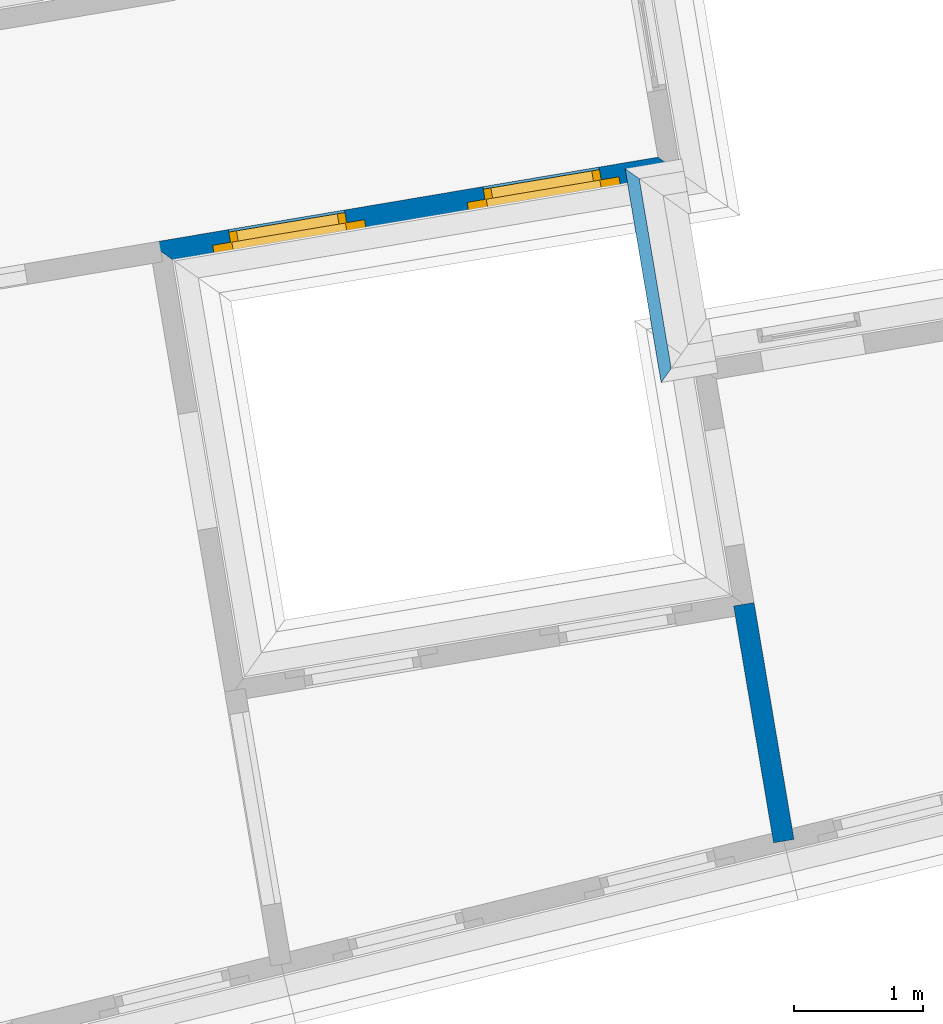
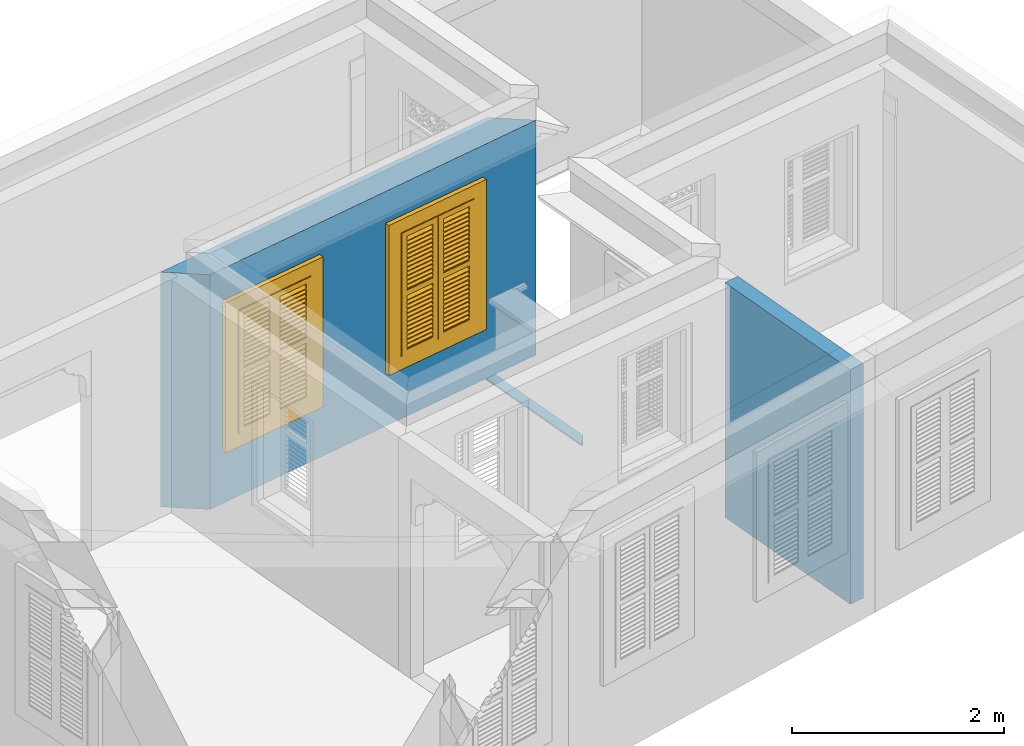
# One storey, part 5 of 12: 3 walls, 2 windows, 2 openings.
"""IFC4 building model written with IfcOpenShell, lengths in metres."""

from ifc_helpers import new_model, si_unit, frame, origin, origin_with_axes, place, context, subcontext, project, spatial, polyline, outline, extrude, clip, halfspace, faceted_brep, source, transform, mapped, material, layer, layer_set, layer_usage, material_profile, profile_set, profile_usage, type_object, type_shapes, element, fill, save


model = new_model("IFC4")

# Units and contexts
model_context = context("Model", 3, world=origin_with_axes())
body_context = subcontext(model_context, "Body", "Model", "MODEL_VIEW")
ifc_project = project(units=[si_unit("PLANEANGLEUNIT", "RADIAN"), si_unit("MASSUNIT", "GRAM", prefix="KILO"), si_unit("FORCEUNIT", "NEWTON", prefix="KILO"), si_unit("LENGTHUNIT", "METRE"), si_unit("AREAUNIT", "SQUARE_METRE"), si_unit("VOLUMEUNIT", "CUBIC_METRE")], contexts=[model_context, model_context])

# Site, building, storey
site_placement = place(None, origin_with_axes())
site = spatial("IfcSite", under=ifc_project, at=site_placement, Name="Site plot-6", CompositionType="ELEMENT")
building_placement = place(None, origin_with_axes())
building = spatial("IfcBuilding", under=site, at=building_placement, Name="Building plot-6", CompositionType="ELEMENT")
storey_placement = place(None, frame((0.0, 0.0, 3.6), z_axis=(0.0, 0.0, 1.0), x_axis=(1.0, 0.0, 0.0)))
storey = spatial("IfcBuildingStorey", under=building, at=storey_placement, Name="plot-6 1", CompositionType="ELEMENT", Elevation=3.6)

# Wall, openings, windows
ifc_material_1 = material(Name="Masonry")
ifc_layer_1 = layer(ifc_material_1, 0.33, ventilated=False)
ifc_layer_set_1 = layer_set([ifc_layer_1], Name="exterior_0.08_0.25")
ifc_layer_usage_1 = layer_usage(ifc_layer_set_1, "AXIS2", "POSITIVE", -0.25)
wall_type_1 = type_object("IfcWallType", Name="exterior_0.08_0.25", PredefinedType="SOLIDWALL", material=ifc_layer_set_1)
wall_1_placement = place(storey_placement, frame((-6.94638677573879, 2.66513004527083, 0.0), z_axis=(0.0, 0.0, 1.0), x_axis=(0.986076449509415, 0.166292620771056, 0.0)))
wall_1 = element("IfcWall", 1, at=wall_1_placement, inside=storey, type_object=wall_type_1, material=ifc_layer_usage_1, Name="exterior", context=body_context, shape_type="SweptSolid", body=[
    extrude(outline(polyline([(-0.0799999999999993, 0.0799999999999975), (0.249999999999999, -0.250000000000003), (4.23805094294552, -0.25), (3.90805094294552, 0.0799999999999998), (-0.0799999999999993, 0.0799999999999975)])), origin_with_axes(), (0.0, 0.0, 1.0), 2.7),
])
opening_1_placement = place(wall_1_placement, frame((0.542012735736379, 0.0, 0.75)))
opening_1 = element("IfcOpeningElement", 2, at=opening_1_placement, cuts=wall_1, Name="My Opening", ObjectType="Opening", context=body_context, shape_type="SweptSolid", body=[
    extrude(outline(polyline([(0.0, -0.27), (0.91, -0.27), (0.91, 1.1), (-4.44089209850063e-16, 1.1), (0.0, -0.27)])), origin_with_axes(), (0.0, 0.0, 1.0), 1.445),
])
opening_2_placement = place(wall_1_placement, frame((2.53603820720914, 0.0, 0.75)))
opening_2 = element("IfcOpeningElement", 3, at=opening_2_placement, cuts=wall_1, Name="My Opening", ObjectType="Opening", context=body_context, shape_type="SweptSolid", body=[
    extrude(outline(polyline([(0.0, -0.27), (0.91, -0.27), (0.91, 1.1), (0.0, 1.1), (0.0, -0.27)])), origin_with_axes(), (0.0, 0.0, 1.0), 1.445),
])
window_type = type_object("IfcWindowType", Name="shuttered_shorter", PartitioningType="DOUBLE_PANEL_HORIZONTAL", PredefinedType="NOTDEFINED")
shared_shape = source(origin(), body_context, "Body", "Brep", [
    faceted_brep([(0.393, 0.0, 0.622), (0.074, 0.0, 0.622), (0.074, 0.0, 0.632), (0.393, 0.0, 0.632), (0.074, -0.04, 0.592), (0.393, -0.04, 0.592), (0.393, -0.04, 0.582), (0.074, -0.04, 0.582), (0.517, 0.0, 0.682), (0.836, 0.0, 0.682), (0.836, 0.0, 0.672), (0.517, 0.0, 0.672), (0.517, -0.04, 0.642), (0.836, -0.04, 0.642), (0.836, -0.04, 0.632), (0.517, -0.04, 0.632), (0.517, 0.0, 0.632), (0.836, 0.0, 0.632), (0.836, 0.0, 0.622), (0.517, 0.0, 0.622), (0.517, -0.04, 0.592), (0.836, -0.04, 0.592), (0.836, -0.04, 0.582), (0.517, -0.04, 0.582), (0.517, 0.0, 0.232), (0.836, 0.0, 0.232), (0.836, 0.0, 0.222), (0.517, 0.0, 0.222), (0.517, -0.04, 0.192), (0.836, -0.04, 0.192), (0.836, -0.04, 0.182), (0.517, -0.04, 0.182), (0.517, 0.0, 0.532), (0.836, 0.0, 0.532), (0.836, 0.0, 0.522), (0.517, 0.0, 0.522), (0.517, -0.04, 0.492), (0.836, -0.04, 0.492), (0.836, -0.04, 0.482), (0.517, -0.04, 0.482), (0.517, 0.0, 0.482), (0.836, 0.0, 0.482), (0.836, 0.0, 0.472), (0.517, 0.0, 0.472), (0.517, -0.04, 0.442), (0.836, -0.04, 0.442), (0.836, -0.04, 0.432), (0.517, -0.04, 0.432), (0.517, 0.0, 0.582), (0.836, 0.0, 0.582), (0.836, 0.0, 0.572), (0.517, 0.0, 0.572), (0.517, -0.04, 0.542), (0.836, -0.04, 0.542), (0.836, -0.04, 0.532), (0.517, -0.04, 0.532), (0.517, 0.0, 0.182), (0.836, 0.0, 0.182), (0.836, 0.0, 0.172), (0.517, 0.0, 0.172), (0.517, -0.04, 0.142), (0.836, -0.04, 0.142), (0.836, -0.04, 0.132), (0.517, -0.04, 0.132), (0.517, 0.0, 0.382), (0.836, 0.0, 0.382), (0.836, 0.0, 0.372), (0.517, 0.0, 0.372), (0.517, -0.04, 0.342), (0.836, -0.04, 0.342), (0.836, -0.04, 0.332), (0.517, -0.04, 0.332), (0.517, 0.0, 0.432), (0.836, 0.0, 0.432), (0.836, 0.0, 0.422), (0.517, 0.0, 0.422), (0.517, -0.04, 0.392), (0.836, -0.04, 0.392), (0.836, -0.04, 0.382), (0.517, -0.04, 0.382), (0.517, 0.0, 0.132), (0.836, 0.0, 0.132), (0.836, 0.0, 0.122), (0.517, 0.0, 0.122), (0.517, -0.04, 0.092), (0.836, -0.04, 0.092), (0.836, -0.04, 0.082), (0.517, -0.04, 0.082), (0.517, 0.0, 0.282), (0.836, 0.0, 0.282), (0.836, 0.0, 0.272), (0.517, 0.0, 0.272), (0.517, -0.04, 0.242), (0.836, -0.04, 0.242), (0.836, -0.04, 0.232), (0.517, -0.04, 0.232), (0.517, 0.0, 0.332), (0.836, 0.0, 0.332), (0.836, 0.0, 0.322), (0.517, 0.0, 0.322), (0.517, -0.04, 0.292), (0.836, -0.04, 0.292), (0.836, -0.04, 0.282), (0.517, -0.04, 0.282), (0.517, 0.0, 1.362667), (0.836, 0.0, 1.362667), (0.836, 0.0, 1.352667), (0.517, 0.0, 1.352667), (0.517, -0.04, 1.322667), (0.836, -0.04, 1.322667), (0.836, -0.04, 1.312667), (0.517, -0.04, 1.312667), (0.517, 0.0, 1.312667), (0.836, 0.0, 1.312667), (0.836, 0.0, 1.302667), (0.517, 0.0, 1.302667), (0.517, -0.04, 1.272667), (0.836, -0.04, 1.272667), (0.836, -0.04, 1.262667), (0.517, -0.04, 1.262667), (0.517, 0.0, 0.912667), (0.836, 0.0, 0.912667), (0.836, 0.0, 0.902667), (0.517, 0.0, 0.902667), (0.517, -0.04, 0.872667), (0.836, -0.04, 0.872667), (0.836, -0.04, 0.862667), (0.517, -0.04, 0.862667), (0.517, 0.0, 1.212667), (0.836, 0.0, 1.212667), (0.836, 0.0, 1.202667), (0.517, 0.0, 1.202667), (0.517, -0.04, 1.172667), (0.836, -0.04, 1.172667), (0.836, -0.04, 1.162667), (0.517, -0.04, 1.162667), (0.517, 0.0, 1.162667), (0.836, 0.0, 1.162667), (0.836, 0.0, 1.152667), (0.517, 0.0, 1.152667), (0.517, -0.04, 1.122667), (0.836, -0.04, 1.122667), (0.836, -0.04, 1.112667), (0.517, -0.04, 1.112667), (0.517, 0.0, 1.262667), (0.836, 0.0, 1.262667), (0.836, 0.0, 1.252667), (0.517, 0.0, 1.252667), (0.517, -0.04, 1.222667), (0.836, -0.04, 1.222667), (0.836, -0.04, 1.212667), (0.517, -0.04, 1.212667), (0.517, 0.0, 0.862667), (0.836, 0.0, 0.862667), (0.836, 0.0, 0.852667), (0.517, 0.0, 0.852667), (0.517, -0.04, 0.822667), (0.836, -0.04, 0.822667), (0.836, -0.04, 0.812667), (0.517, -0.04, 0.812667), (0.517, 0.0, 1.062667), (0.836, 0.0, 1.062667), (0.836, 0.0, 1.052667), (0.517, 0.0, 1.052667), (0.517, -0.04, 1.022667), (0.836, -0.04, 1.022667), (0.836, -0.04, 1.012667), (0.517, -0.04, 1.012667), (0.517, 0.0, 1.112667), (0.836, 0.0, 1.112667), (0.836, 0.0, 1.102667), (0.517, 0.0, 1.102667), (0.517, -0.04, 1.072667), (0.836, -0.04, 1.072667), (0.836, -0.04, 1.062667), (0.517, -0.04, 1.062667), (0.517, 0.0, 0.812667), (0.836, 0.0, 0.812667), (0.836, 0.0, 0.802667), (0.517, 0.0, 0.802667), (0.517, -0.04, 0.772667), (0.836, -0.04, 0.772667), (0.836, -0.04, 0.762667), (0.517, -0.04, 0.762667), (0.517, 0.0, 0.962667), (0.836, 0.0, 0.962667), (0.836, 0.0, 0.952667), (0.517, 0.0, 0.952667), (0.517, -0.04, 0.922667), (0.836, -0.04, 0.922667), (0.836, -0.04, 0.912667), (0.517, -0.04, 0.912667), (0.517, 0.0, 1.012667), (0.836, 0.0, 1.012667), (0.836, 0.0, 1.002667), (0.517, 0.0, 1.002667), (0.517, -0.04, 0.972667), (0.836, -0.04, 0.972667), (0.836, -0.04, 0.962667), (0.517, -0.04, 0.962667), (0.074, 0.0, 0.682), (0.393, 0.0, 0.682), (0.393, 0.0, 0.672), (0.074, 0.0, 0.672), (0.074, -0.04, 0.642), (0.393, -0.04, 0.642), (0.393, -0.04, 0.632), (0.074, -0.04, 0.632), (0.074, 0.0, 0.232), (0.393, 0.0, 0.232), (0.393, 0.0, 0.222), (0.074, 0.0, 0.222), (0.074, -0.04, 0.192), (0.393, -0.04, 0.192), (0.393, -0.04, 0.182), (0.074, -0.04, 0.182), (0.074, 0.0, 0.532), (0.393, 0.0, 0.532), (0.393, 0.0, 0.522), (0.074, 0.0, 0.522), (0.074, -0.04, 0.492), (0.393, -0.04, 0.492), (0.393, -0.04, 0.482), (0.074, -0.04, 0.482), (0.074, 0.0, 0.482), (0.393, 0.0, 0.482), (0.393, 0.0, 0.472), (0.074, 0.0, 0.472), (0.074, -0.04, 0.442), (0.393, -0.04, 0.442), (0.393, -0.04, 0.432), (0.074, -0.04, 0.432), (0.074, 0.0, 0.582), (0.393, 0.0, 0.582), (0.393, 0.0, 0.572), (0.074, 0.0, 0.572), (0.074, -0.04, 0.542), (0.393, -0.04, 0.542), (0.393, -0.04, 0.532), (0.074, -0.04, 0.532), (0.074, 0.0, 0.182), (0.393, 0.0, 0.182), (0.393, 0.0, 0.172), (0.074, 0.0, 0.172), (0.074, -0.04, 0.142), (0.393, -0.04, 0.142), (0.393, -0.04, 0.132), (0.074, -0.04, 0.132), (0.074, 0.0, 0.382), (0.393, 0.0, 0.382), (0.393, 0.0, 0.372), (0.074, 0.0, 0.372), (0.074, -0.04, 0.342), (0.393, -0.04, 0.342), (0.393, -0.04, 0.332), (0.074, -0.04, 0.332), (0.074, 0.0, 0.432), (0.393, 0.0, 0.432), (0.393, 0.0, 0.422), (0.074, 0.0, 0.422), (0.074, -0.04, 0.392), (0.393, -0.04, 0.392), (0.393, -0.04, 0.382), (0.074, -0.04, 0.382), (0.074, 0.0, 0.132), (0.393, 0.0, 0.132), (0.393, 0.0, 0.122), (0.074, 0.0, 0.122), (0.074, -0.04, 0.092), (0.393, -0.04, 0.092), (0.393, -0.04, 0.082), (0.074, -0.04, 0.082), (0.074, 0.0, 0.282), (0.393, 0.0, 0.282), (0.393, 0.0, 0.272), (0.074, 0.0, 0.272), (0.074, -0.04, 0.242), (0.393, -0.04, 0.242), (0.393, -0.04, 0.232), (0.074, -0.04, 0.232), (0.074, 0.0, 0.332), (0.393, 0.0, 0.332), (0.393, 0.0, 0.322), (0.074, 0.0, 0.322), (0.074, -0.04, 0.292), (0.393, -0.04, 0.292), (0.393, -0.04, 0.282), (0.074, -0.04, 0.282), (0.074, 0.0, 1.362667), (0.393, 0.0, 1.362667), (0.393, 0.0, 1.352667), (0.074, 0.0, 1.352667), (0.074, -0.04, 1.322667), (0.393, -0.04, 1.322667), (0.393, -0.04, 1.312667), (0.074, -0.04, 1.312667), (0.074, 0.0, 1.312667), (0.393, 0.0, 1.312667), (0.393, 0.0, 1.302667), (0.074, 0.0, 1.302667), (0.074, -0.04, 1.272667), (0.393, -0.04, 1.272667), (0.393, -0.04, 1.262667), (0.074, -0.04, 1.262667), (0.074, 0.0, 0.912667), (0.393, 0.0, 0.912667), (0.393, 0.0, 0.902667), (0.074, 0.0, 0.902667), (0.074, -0.04, 0.872667), (0.393, -0.04, 0.872667), (0.393, -0.04, 0.862667), (0.074, -0.04, 0.862667), (0.074, 0.0, 1.212667), (0.393, 0.0, 1.212667), (0.393, 0.0, 1.202667), (0.074, 0.0, 1.202667), (0.074, -0.04, 1.172667), (0.393, -0.04, 1.172667), (0.393, -0.04, 1.162667), (0.074, -0.04, 1.162667), (0.074, 0.0, 1.162667), (0.393, 0.0, 1.162667), (0.393, 0.0, 1.152667), (0.074, 0.0, 1.152667), (0.074, -0.04, 1.122667), (0.393, -0.04, 1.122667), (0.393, -0.04, 1.112667), (0.074, -0.04, 1.112667), (0.074, 0.0, 1.262667), (0.393, 0.0, 1.262667), (0.393, 0.0, 1.252667), (0.074, 0.0, 1.252667), (0.074, -0.04, 1.222667), (0.393, -0.04, 1.222667), (0.393, -0.04, 1.212667), (0.074, -0.04, 1.212667), (0.074, 0.0, 0.862667), (0.393, 0.0, 0.862667), (0.393, 0.0, 0.852667), (0.074, 0.0, 0.852667), (0.074, -0.04, 0.822667), (0.393, -0.04, 0.822667), (0.393, -0.04, 0.812667), (0.074, -0.04, 0.812667), (0.074, 0.0, 1.062667), (0.393, 0.0, 1.062667), (0.393, 0.0, 1.052667), (0.074, 0.0, 1.052667), (0.074, -0.04, 1.022667), (0.393, -0.04, 1.022667), (0.393, -0.04, 1.012667), (0.074, -0.04, 1.012667), (0.074, 0.0, 1.112667), (0.393, 0.0, 1.112667), (0.393, 0.0, 1.102667), (0.074, 0.0, 1.102667), (0.074, -0.04, 1.072667), (0.393, -0.04, 1.072667), (0.393, -0.04, 1.062667), (0.074, -0.04, 1.062667), (0.074, 0.0, 0.812667), (0.393, 0.0, 0.812667), (0.393, 0.0, 0.802667), (0.074, 0.0, 0.802667), (0.074, -0.04, 0.772667), (0.393, -0.04, 0.772667), (0.393, -0.04, 0.762667), (0.074, -0.04, 0.762667), (0.074, 0.0, 0.962667), (0.393, 0.0, 0.962667), (0.393, 0.0, 0.952667), (0.074, 0.0, 0.952667), (0.074, -0.04, 0.922667), (0.393, -0.04, 0.922667), (0.393, -0.04, 0.912667), (0.074, -0.04, 0.912667), (0.074, 0.0, 1.012667), (0.393, 0.0, 1.012667), (0.393, 0.0, 1.002667), (0.074, 0.0, 1.002667), (0.074, -0.04, 0.972667), (0.393, -0.04, 0.972667), (0.393, -0.04, 0.962667), (0.074, -0.04, 0.962667), (0.517, -0.04, 0.072), (0.457, -0.04, 0.012), (0.896, -0.04, 0.012), (0.836, -0.04, 0.072), (0.457, -0.04, 0.692667), (0.517, -0.04, 0.692667), (0.457, 0.0, 0.012), (0.896, 0.0, 0.012), (0.836, -0.04, 0.692667), (0.896, -0.04, 0.692667), (0.836, 0.0, 0.072), (0.517, 0.0, 0.072), (0.457, 0.0, 0.692667), (0.517, 0.0, 0.692667), (0.517, -0.04, 0.752666), (0.457, -0.04, 0.752666), (0.896, 0.0, 0.692667), (0.836, 0.0, 0.692667), (0.836, -0.04, 0.752666), (0.896, -0.04, 0.752666), (0.457, 0.0, 0.752666), (0.457, -0.04, 1.433333), (0.517, -0.04, 1.373333), (0.896, 0.0, 0.752666), (0.836, -0.04, 1.373333), (0.896, -0.04, 1.433333), (0.457, 0.0, 1.433333), (0.517, 0.0, 0.752666), (0.836, 0.0, 0.752666), (0.517, 0.0, 1.373333), (0.896, 0.0, 1.433333), (0.836, 0.0, 1.373333), (0.074, -0.04, 0.072), (0.014, -0.04, 0.012), (0.453, -0.04, 0.012), (0.393, -0.04, 0.072), (0.014, -0.04, 0.692667), (0.074, -0.04, 0.692667), (0.014, 0.0, 0.012), (0.453, 0.0, 0.012), (0.393, -0.04, 0.692667), (0.453, -0.04, 0.692667), (0.393, 0.0, 0.072), (0.074, 0.0, 0.072), (0.014, 0.0, 0.692667), (0.074, 0.0, 0.692667), (0.074, -0.04, 0.752666), (0.014, -0.04, 0.752666), (0.453, 0.0, 0.692667), (0.393, 0.0, 0.692667), (0.393, -0.04, 0.752666), (0.453, -0.04, 0.752666), (0.014, 0.0, 0.752666), (0.014, -0.04, 1.433333), (0.074, -0.04, 1.373333), (0.453, 0.0, 0.752666), (0.393, -0.04, 1.373333), (0.453, -0.04, 1.433333), (0.014, 0.0, 1.433333), (0.074, 0.0, 0.752666), (0.393, 0.0, 0.752666), (0.074, 0.0, 1.373333), (0.453, 0.0, 1.433333), (0.393, 0.0, 1.373333), (0.0, 0.33, 1.445), (0.91, 0.33, 1.445), (0.85, 0.33, 1.385), (0.06, 0.33, 1.385), (0.91, 0.25, 1.445), (0.0, 0.25, 1.445), (0.91, 0.25, 1.445), (0.85, 0.33, 0.06), (0.91, 0.33, 0.0), (0.85, 0.25, 1.385), (0.06, 0.25, 1.385), (0.0, 0.33, 0.0), (0.06, 0.33, 0.06), (0.0, 0.25, 0.0), (0.91, 0.25, 0.0), (0.85, 0.25, 0.06), (0.06, 0.25, 0.06), (1.05, 0.25, 1.585), (-0.14, 0.25, 1.585), (-0.14, -0.03, 1.585), (1.05, -0.03, 1.585), (0.9, -0.03, 1.435), (0.01, -0.03, 1.435), (0.01, 0.25, 1.435), (0.9, 0.25, 1.435), (0.9, 0.25, 0.01), (0.9, -0.03, 0.01), (1.05, -0.03, -0.14), (1.05, 0.25, -0.14), (0.01, -0.03, 0.01), (0.01, 0.25, 0.01), (-0.14, -0.03, -0.14), (-0.14, 0.25, -0.14)], [[[0, 1, 2, 3]], [[4, 5, 3, 2]], [[5, 6, 0, 3]], [[1, 0, 6, 7]], [[2, 1, 7, 4]], [[5, 4, 7, 6]], [[8, 9, 10, 11]], [[12, 13, 9, 8]], [[13, 14, 10, 9]], [[14, 15, 11, 10]], [[15, 12, 8, 11]], [[13, 12, 15, 14]], [[16, 17, 18, 19]], [[20, 21, 17, 16]], [[21, 22, 18, 17]], [[22, 23, 19, 18]], [[23, 20, 16, 19]], [[21, 20, 23, 22]], [[24, 25, 26, 27]], [[28, 29, 25, 24]], [[29, 30, 26, 25]], [[30, 31, 27, 26]], [[31, 28, 24, 27]], [[29, 28, 31, 30]], [[32, 33, 34, 35]], [[36, 37, 33, 32]], [[37, 38, 34, 33]], [[38, 39, 35, 34]], [[39, 36, 32, 35]], [[37, 36, 39, 38]], [[40, 41, 42, 43]], [[44, 45, 41, 40]], [[45, 46, 42, 41]], [[46, 47, 43, 42]], [[47, 44, 40, 43]], [[45, 44, 47, 46]], [[48, 49, 50, 51]], [[52, 53, 49, 48]], [[53, 54, 50, 49]], [[54, 55, 51, 50]], [[55, 52, 48, 51]], [[53, 52, 55, 54]], [[56, 57, 58, 59]], [[60, 61, 57, 56]], [[61, 62, 58, 57]], [[62, 63, 59, 58]], [[63, 60, 56, 59]], [[61, 60, 63, 62]], [[64, 65, 66, 67]], [[68, 69, 65, 64]], [[69, 70, 66, 65]], [[70, 71, 67, 66]], [[71, 68, 64, 67]], [[69, 68, 71, 70]], [[72, 73, 74, 75]], [[76, 77, 73, 72]], [[77, 78, 74, 73]], [[78, 79, 75, 74]], [[79, 76, 72, 75]], [[77, 76, 79, 78]], [[80, 81, 82, 83]], [[84, 85, 81, 80]], [[85, 86, 82, 81]], [[86, 87, 83, 82]], [[87, 84, 80, 83]], [[85, 84, 87, 86]], [[88, 89, 90, 91]], [[92, 93, 89, 88]], [[93, 94, 90, 89]], [[94, 95, 91, 90]], [[95, 92, 88, 91]], [[93, 92, 95, 94]], [[96, 97, 98, 99]], [[100, 101, 97, 96]], [[101, 102, 98, 97]], [[102, 103, 99, 98]], [[103, 100, 96, 99]], [[101, 100, 103, 102]], [[104, 105, 106, 107]], [[108, 109, 105, 104]], [[109, 110, 106, 105]], [[110, 111, 107, 106]], [[111, 108, 104, 107]], [[109, 108, 111, 110]], [[112, 113, 114, 115]], [[116, 117, 113, 112]], [[117, 118, 114, 113]], [[118, 119, 115, 114]], [[119, 116, 112, 115]], [[117, 116, 119, 118]], [[120, 121, 122, 123]], [[124, 125, 121, 120]], [[125, 126, 122, 121]], [[126, 127, 123, 122]], [[127, 124, 120, 123]], [[125, 124, 127, 126]], [[128, 129, 130, 131]], [[132, 133, 129, 128]], [[133, 134, 130, 129]], [[134, 135, 131, 130]], [[135, 132, 128, 131]], [[133, 132, 135, 134]], [[136, 137, 138, 139]], [[140, 141, 137, 136]], [[141, 142, 138, 137]], [[142, 143, 139, 138]], [[139, 143, 140, 136]], [[141, 140, 143, 142]], [[144, 145, 146, 147]], [[148, 149, 145, 144]], [[149, 150, 146, 145]], [[150, 151, 147, 146]], [[151, 148, 144, 147]], [[149, 148, 151, 150]], [[152, 153, 154, 155]], [[156, 157, 153, 152]], [[157, 158, 154, 153]], [[158, 159, 155, 154]], [[159, 156, 152, 155]], [[157, 156, 159, 158]], [[160, 161, 162, 163]], [[164, 165, 161, 160]], [[165, 166, 162, 161]], [[166, 167, 163, 162]], [[167, 164, 160, 163]], [[165, 164, 167, 166]], [[168, 169, 170, 171]], [[172, 173, 169, 168]], [[173, 174, 170, 169]], [[174, 175, 171, 170]], [[175, 172, 168, 171]], [[173, 172, 175, 174]], [[176, 177, 178, 179]], [[180, 181, 177, 176]], [[181, 182, 178, 177]], [[182, 183, 179, 178]], [[183, 180, 176, 179]], [[181, 180, 183, 182]], [[184, 185, 186, 187]], [[188, 189, 185, 184]], [[189, 190, 186, 185]], [[190, 191, 187, 186]], [[191, 188, 184, 187]], [[189, 188, 191, 190]], [[192, 193, 194, 195]], [[196, 197, 193, 192]], [[197, 198, 194, 193]], [[198, 199, 195, 194]], [[199, 196, 192, 195]], [[197, 196, 199, 198]], [[200, 201, 202, 203]], [[204, 205, 201, 200]], [[205, 206, 202, 201]], [[206, 207, 203, 202]], [[207, 204, 200, 203]], [[205, 204, 207, 206]], [[208, 209, 210, 211]], [[212, 213, 209, 208]], [[213, 214, 210, 209]], [[214, 215, 211, 210]], [[215, 212, 208, 211]], [[213, 212, 215, 214]], [[216, 217, 218, 219]], [[220, 221, 217, 216]], [[221, 222, 218, 217]], [[222, 223, 219, 218]], [[223, 220, 216, 219]], [[221, 220, 223, 222]], [[224, 225, 226, 227]], [[228, 229, 225, 224]], [[229, 230, 226, 225]], [[230, 231, 227, 226]], [[231, 228, 224, 227]], [[229, 228, 231, 230]], [[232, 233, 234, 235]], [[236, 237, 233, 232]], [[237, 238, 234, 233]], [[238, 239, 235, 234]], [[239, 236, 232, 235]], [[237, 236, 239, 238]], [[240, 241, 242, 243]], [[244, 245, 241, 240]], [[245, 246, 242, 241]], [[246, 247, 243, 242]], [[247, 244, 240, 243]], [[245, 244, 247, 246]], [[248, 249, 250, 251]], [[252, 253, 249, 248]], [[253, 254, 250, 249]], [[254, 255, 251, 250]], [[255, 252, 248, 251]], [[253, 252, 255, 254]], [[256, 257, 258, 259]], [[260, 261, 257, 256]], [[261, 262, 258, 257]], [[262, 263, 259, 258]], [[263, 260, 256, 259]], [[261, 260, 263, 262]], [[264, 265, 266, 267]], [[268, 269, 265, 264]], [[269, 270, 266, 265]], [[270, 271, 267, 266]], [[271, 268, 264, 267]], [[269, 268, 271, 270]], [[272, 273, 274, 275]], [[276, 277, 273, 272]], [[277, 278, 274, 273]], [[278, 279, 275, 274]], [[279, 276, 272, 275]], [[277, 276, 279, 278]], [[280, 281, 282, 283]], [[284, 285, 281, 280]], [[285, 286, 282, 281]], [[286, 287, 283, 282]], [[287, 284, 280, 283]], [[285, 284, 287, 286]], [[288, 289, 290, 291]], [[292, 293, 289, 288]], [[293, 294, 290, 289]], [[294, 295, 291, 290]], [[295, 292, 288, 291]], [[293, 292, 295, 294]], [[296, 297, 298, 299]], [[300, 301, 297, 296]], [[301, 302, 298, 297]], [[302, 303, 299, 298]], [[303, 300, 296, 299]], [[301, 300, 303, 302]], [[304, 305, 306, 307]], [[308, 309, 305, 304]], [[309, 310, 306, 305]], [[310, 311, 307, 306]], [[311, 308, 304, 307]], [[309, 308, 311, 310]], [[312, 313, 314, 315]], [[316, 317, 313, 312]], [[317, 318, 314, 313]], [[318, 319, 315, 314]], [[319, 316, 312, 315]], [[317, 316, 319, 318]], [[320, 321, 322, 323]], [[324, 325, 321, 320]], [[325, 326, 322, 321]], [[326, 327, 323, 322]], [[327, 324, 320, 323]], [[325, 324, 327, 326]], [[328, 329, 330, 331]], [[332, 333, 329, 328]], [[333, 334, 330, 329]], [[334, 335, 331, 330]], [[335, 332, 328, 331]], [[333, 332, 335, 334]], [[336, 337, 338, 339]], [[340, 341, 337, 336]], [[341, 342, 338, 337]], [[342, 343, 339, 338]], [[343, 340, 336, 339]], [[341, 340, 343, 342]], [[344, 345, 346, 347]], [[348, 349, 345, 344]], [[349, 350, 346, 345]], [[350, 351, 347, 346]], [[351, 348, 344, 347]], [[349, 348, 351, 350]], [[352, 353, 354, 355]], [[356, 357, 353, 352]], [[357, 358, 354, 353]], [[358, 359, 355, 354]], [[359, 356, 352, 355]], [[357, 356, 359, 358]], [[360, 361, 362, 363]], [[364, 365, 361, 360]], [[365, 366, 362, 361]], [[366, 367, 363, 362]], [[367, 364, 360, 363]], [[365, 364, 367, 366]], [[368, 369, 370, 371]], [[372, 373, 369, 368]], [[373, 374, 370, 369]], [[374, 375, 371, 370]], [[375, 372, 368, 371]], [[373, 372, 375, 374]], [[376, 377, 378, 379]], [[380, 381, 377, 376]], [[381, 382, 378, 377]], [[382, 383, 379, 378]], [[383, 380, 376, 379]], [[381, 380, 383, 382]], [[384, 385, 386, 387]], [[388, 385, 384, 389]], [[390, 391, 386, 385]], [[392, 387, 386, 393]], [[384, 387, 394, 395]], [[390, 385, 388, 396]], [[389, 384, 395, 397]], [[389, 398, 399, 388]], [[390, 395, 394, 391]], [[400, 393, 386, 391]], [[387, 392, 401, 394]], [[402, 392, 393, 403]], [[396, 388, 399, 404]], [[390, 396, 397, 395]], [[392, 389, 397, 401]], [[398, 389, 392, 402]], [[405, 399, 398, 406]], [[394, 401, 400, 391]], [[407, 403, 393, 400]], [[408, 402, 403, 409]], [[404, 399, 405, 410]], [[411, 397, 396, 404]], [[397, 411, 412, 401]], [[398, 402, 412, 411]], [[406, 398, 411, 413]], [[405, 406, 408, 409]], [[401, 412, 407, 400]], [[414, 409, 403, 407]], [[402, 408, 415, 412]], [[405, 409, 414, 410]], [[404, 410, 413, 411]], [[408, 406, 413, 415]], [[412, 415, 414, 407]], [[413, 410, 414, 415]], [[416, 417, 418, 419]], [[420, 417, 416, 421]], [[422, 423, 418, 417]], [[424, 419, 418, 425]], [[416, 419, 426, 427]], [[422, 417, 420, 428]], [[421, 416, 427, 429]], [[421, 430, 431, 420]], [[422, 427, 426, 423]], [[432, 425, 418, 423]], [[419, 424, 433, 426]], [[434, 424, 425, 435]], [[428, 420, 431, 436]], [[422, 428, 429, 427]], [[424, 421, 429, 433]], [[430, 421, 424, 434]], [[437, 431, 430, 438]], [[426, 433, 432, 423]], [[439, 435, 425, 432]], [[440, 434, 435, 441]], [[436, 431, 437, 442]], [[443, 429, 428, 436]], [[429, 443, 444, 433]], [[430, 434, 444, 443]], [[438, 430, 443, 445]], [[437, 438, 440, 441]], [[433, 444, 439, 432]], [[446, 441, 435, 439]], [[434, 440, 447, 444]], [[437, 441, 446, 442]], [[436, 442, 445, 443]], [[440, 438, 445, 447]], [[444, 447, 446, 439]], [[445, 442, 446, 447]], [[448, 449, 450, 451]], [[452, 449, 448]], [[448, 453, 454]], [[448, 454, 452]], [[455, 450, 449, 456]], [[451, 450, 457, 458]], [[459, 448, 451, 460]], [[448, 459, 461, 453]], [[454, 453, 458, 457]], [[462, 452, 454]], [[454, 457, 463]], [[454, 463, 462]], [[456, 449, 452, 462]], [[450, 455, 463, 457]], [[456, 459, 460, 455]], [[460, 451, 458, 464]], [[459, 456, 462, 461]], [[464, 458, 453, 461]], [[461, 462, 463, 464]], [[455, 460, 464, 463]], [[465, 466, 467, 468]], [[469, 470, 471, 472]], [[473, 474, 469, 472]], [[465, 468, 475, 476]], [[470, 477, 478, 471]], [[474, 473, 478, 477]], [[474, 477, 479, 475]], [[470, 467, 479, 477]], [[470, 469, 468, 467]], [[474, 475, 468, 469]], [[471, 478, 480, 466]], [[473, 472, 465, 476]], [[473, 476, 480, 478]], [[466, 465, 472, 471]], [[480, 476, 475, 479]], [[480, 479, 467, 466]]]),
])
type_shapes(window_type, [shared_shape])
window_1_placement = place(storey_placement, frame((-6.36702177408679, 2.48902212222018, 0.75), z_axis=(0.0, 0.0, 1.0), x_axis=(0.897329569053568, 0.151326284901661, 0.0)))
window_1 = element("IfcWindow", 4, at=window_1_placement, inside=storey, type_object=window_type, Name="circulation sahn window", OverallHeight=1.445, OverallWidth=0.91, context=body_context, shape_type="MappedRepresentation", body=[
    mapped(shared_shape, transform((0.0, 0.0, 0.0), scale=1.0)),
])
fill(opening_1, window_1)
window_2_placement = place(storey_placement, frame((-4.4007602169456, 2.82061384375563, 0.75), z_axis=(0.0, 0.0, 1.0), x_axis=(0.897329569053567, 0.151326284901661, 0.0)))
window_2 = element("IfcWindow", 5, at=window_2_placement, inside=storey, type_object=window_type, Name="circulation sahn window", OverallHeight=1.445, OverallWidth=0.91, context=body_context, shape_type="MappedRepresentation", body=[
    mapped(shared_shape, transform((0.0, 0.0, 0.0), scale=1.0)),
])
fill(opening_2, window_2)

# Walls
ifc_material_2 = material(Name="Masonry")
ifc_layer_2 = layer(ifc_material_2, 0.16, ventilated=False)
ifc_layer_set_2 = layer_set([ifc_layer_2], Name="interior_0.08_0.08")
ifc_layer_usage_2 = layer_usage(ifc_layer_set_2, "AXIS2", "POSITIVE", -0.08)
wall_type_2 = type_object("IfcWallType", Name="interior_0.08_0.08", PredefinedType="SOLIDWALL", material=ifc_layer_set_2)
wall_2_placement = place(storey_placement, frame((-2.44228456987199, -0.0610171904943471, 0.0), z_axis=(0.0, 0.0, 1.0), x_axis=(0.166292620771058, -0.986076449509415, 0.0)))
element("IfcWall", 6, at=wall_2_placement, inside=storey, type_object=wall_type_2, material=ifc_layer_usage_2, Name="interior", context=body_context, shape_type="SweptSolid", body=[
    extrude(outline(polyline([(4.89858719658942e-18, 0.0800000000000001), (-1.46957615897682e-17, -0.0800000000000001), (1.85618156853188, -0.0800000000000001), (1.85618156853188, 0.0800000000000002), (4.89858719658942e-18, 0.0800000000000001)])), origin_with_axes(), (0.0, 0.0, 1.0), 2.7),
])
ifc_material_profile = material_profile(None, outline(polyline([(0.25, -0.1), (0.265, -0.1), (0.265, -0.085), (0.278, -0.084), (0.289, -0.081), (0.301, -0.074), (0.309, -0.065), (0.315, -0.055), (0.324, -0.044), (0.334, -0.038), (0.345, -0.035), (0.345, -0.015), (0.25, 0.0), (0.25, -0.1)])))
ifc_profile_set = profile_set([ifc_material_profile])
ifc_profile_usage = profile_usage(ifc_profile_set)
wall_type_3 = type_object("IfcWallType", Name="parapet internal_2", PredefinedType="PARAPET", material=ifc_profile_set)
wall_3_placement = place(storey_placement, frame((-2.6319333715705, 1.06355596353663, 0.0), z_axis=(-0.16629262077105, 0.986076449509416, 0.0), x_axis=(-0.986076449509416, -0.16629262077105, 0.0)))
element("IfcWall", 7, at=wall_3_placement, inside=storey, type_object=wall_type_3, material=ifc_profile_usage, Name="parapet internal_2", context=body_context, shape_type="Clipping", body=[
    clip(clip(extrude(outline(polyline([(0.25, -0.1), (0.265, -0.1), (0.265, -0.085), (0.278, -0.084), (0.289, -0.081), (0.301, -0.074), (0.309, -0.065), (0.315, -0.055), (0.324, -0.044), (0.334, -0.038), (0.345, -0.035), (0.345, -0.015), (0.25, 0.0), (0.25, -0.1)])), origin_with_axes(), (0.0, 0.0, 1.0), 2.98673624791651), halfspace(frame((0.0, 0.0, 1.98673624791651), z_axis=(0.707106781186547, 0.0, -0.707106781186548), x_axis=(0.0, 1.0, 0.0)), True)), halfspace(frame((0.0, 0.0, 1.0), z_axis=(-0.707106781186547, 0.0, -0.707106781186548), x_axis=(0.0, 1.0, 0.0)), False)),
])

save(model, "model.ifc")
